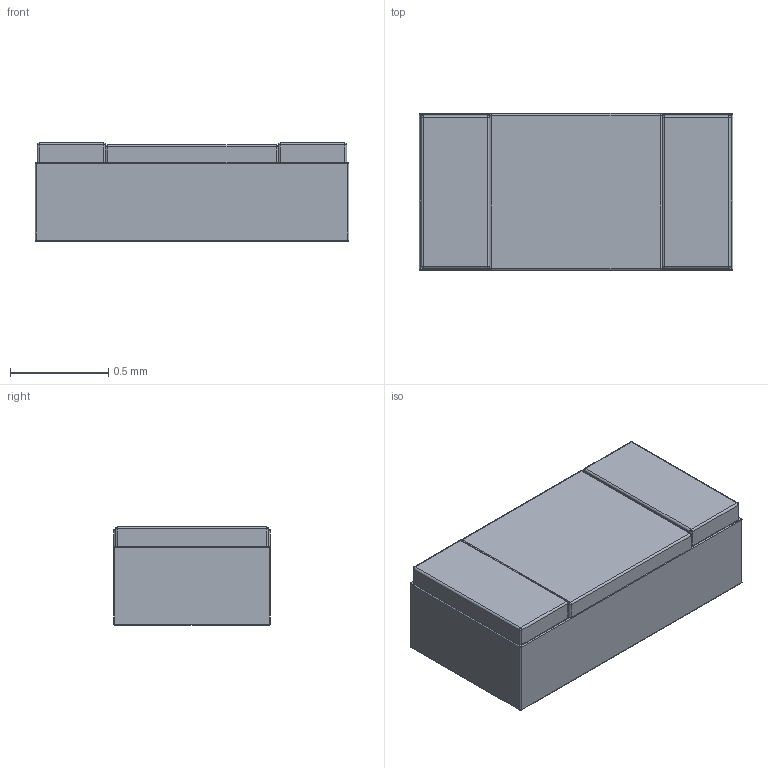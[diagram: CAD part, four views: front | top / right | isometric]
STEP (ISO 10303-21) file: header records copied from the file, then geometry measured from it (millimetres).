
FILE_DESCRIPTION(('STEP AP203'), '1');
FILE_NAME('R2-105-0603(0,022-0,047)', '', ('UNSPECIFIED'), ('UNSPECIFIED'), 'ASCON STEP Converter 1.6', 'ASCON Math Kernel', '');
FILE_SCHEMA(('CONFIG_CONTROL_DESIGN'));
Length unit declared in the file: millimetre
Bounding box: 1.6 x 0.8 x 0.5 mm (x, y, z)
Volume: 0.6 mm3; surface area: 8 mm2
Topology: 4 solids, 5 shells, 99 faces, 227 edges, 118 vertices
Faces by surface type: cylinder 40, plane 39, sphere 20
Entity records: 3437 total; most frequent: DIRECTION 487, CARTESIAN_POINT 425, ORIENTED_EDGE 414, EDGE_CURVE 207, AXIS2_PLACEMENT_3D 180, LINE 127, VECTOR 127, VERTEX_POINT 118
